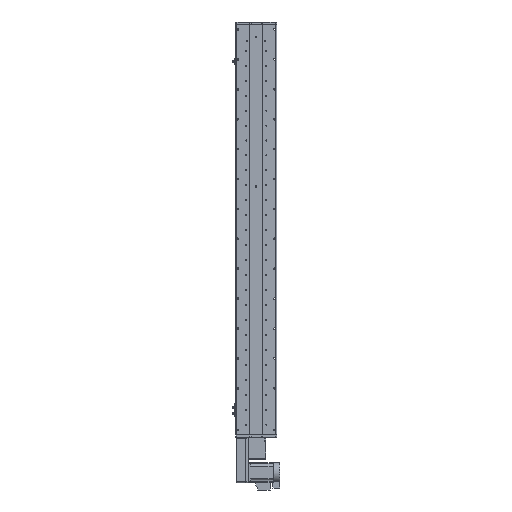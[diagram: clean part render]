
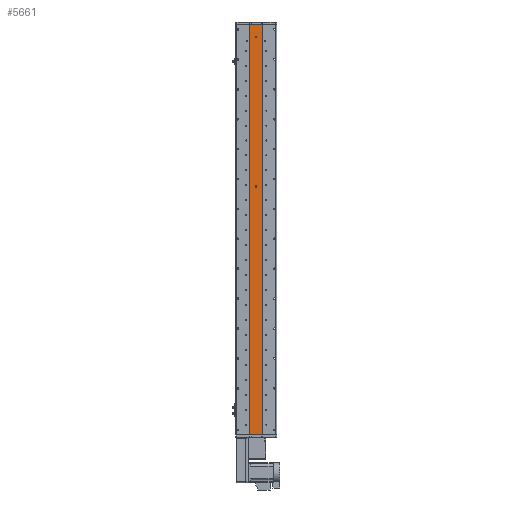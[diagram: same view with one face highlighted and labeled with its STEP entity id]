
A CAD part, front view. The second image highlights one B-rep face of the part: STEP entity #5661.
In plain terms, the highlighted planar face has unit normal (0, -1, 0).
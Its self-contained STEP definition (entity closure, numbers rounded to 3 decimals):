
#212 = DIRECTION ( 'NONE',  ( 0., 1., 0. ) ) ;
#2892 = DIRECTION ( 'NONE',  ( 0., -1., 0. ) ) ;
#3147 = CARTESIAN_POINT ( 'NONE',  ( 0., 1., 776.5 ) ) ;
#3653 = VERTEX_POINT ( 'NONE', #3147 ) ;
#4740 = EDGE_CURVE ( 'NONE', #10972, #29727, #14052, .T. ) ;
#4755 = CARTESIAN_POINT ( 'NONE',  ( -25., 1., 823.5 ) ) ;
#4967 = EDGE_LOOP ( 'NONE', ( #67202, #20370, #46887, #11594 ) ) ;
#5105 = DIRECTION ( 'NONE',  ( 0., 0., -1. ) ) ;
#5661 = ADVANCED_FACE ( 'NONE', ( #26264, #42618, #52580 ), #57800, .F. ) ;
#7641 = CARTESIAN_POINT ( 'NONE',  ( 25., 1., -823.5 ) ) ;
#7988 = CIRCLE ( 'NONE', #39880, 3. ) ;
#8156 = VECTOR ( 'NONE', #5105, 1000. ) ;
#8450 = ORIENTED_EDGE ( 'NONE', *, *, #55243, .F. ) ;
#10090 = ORIENTED_EDGE ( 'NONE', *, *, #12254, .F. ) ;
#10972 = VERTEX_POINT ( 'NONE', #27598 ) ;
#11075 = CIRCLE ( 'NONE', #26065, 3. ) ;
#11594 = ORIENTED_EDGE ( 'NONE', *, *, #4740, .T. ) ;
#12254 = EDGE_CURVE ( 'NONE', #61137, #3653, #11075, .T. ) ;
#12763 = CIRCLE ( 'NONE', #21681, 3. ) ;
#12899 = CARTESIAN_POINT ( 'NONE',  ( 25., 1., 823.5 ) ) ;
#13703 = CARTESIAN_POINT ( 'NONE',  ( 0., 1., 176.5 ) ) ;
#14052 = LINE ( 'NONE', #4755, #40303 ) ;
#14371 = EDGE_LOOP ( 'NONE', ( #10090, #37475 ) ) ;
#15099 = EDGE_CURVE ( 'NONE', #60795, #61756, #32744, .T. ) ;
#16069 = CARTESIAN_POINT ( 'NONE',  ( 25., 1., -823.5 ) ) ;
#16309 = CARTESIAN_POINT ( 'NONE',  ( 0., 1., 773.5 ) ) ;
#16487 = VERTEX_POINT ( 'NONE', #13703 ) ;
#16837 = LINE ( 'NONE', #53611, #41428 ) ;
#18276 = CARTESIAN_POINT ( 'NONE',  ( 0., 1., 173.5 ) ) ;
#18703 = CARTESIAN_POINT ( 'NONE',  ( 0., 1., 170.5 ) ) ;
#19188 = CARTESIAN_POINT ( 'NONE',  ( 0., 1., 773.5 ) ) ;
#20370 = ORIENTED_EDGE ( 'NONE', *, *, #15099, .F. ) ;
#21572 = DIRECTION ( 'NONE',  ( 0., 0., -1. ) ) ;
#21681 = AXIS2_PLACEMENT_3D ( 'NONE', #16309, #53022, #21572 ) ;
#22163 = VECTOR ( 'NONE', #65429, 1000. ) ;
#22281 = AXIS2_PLACEMENT_3D ( 'NONE', #18276, #54981, #23532 ) ;
#22327 = ORIENTED_EDGE ( 'NONE', *, *, #55204, .F. ) ;
#23532 = DIRECTION ( 'NONE',  ( 0., 0., -1. ) ) ;
#24416 = DIRECTION ( 'NONE',  ( 0., 0., -1. ) ) ;
#26065 = AXIS2_PLACEMENT_3D ( 'NONE', #19188, #55892, #24416 ) ;
#26264 = FACE_BOUND ( 'NONE', #35055, .T. ) ;
#27016 = EDGE_CURVE ( 'NONE', #3653, #61137, #12763, .T. ) ;
#27598 = CARTESIAN_POINT ( 'NONE',  ( -25., 1., 823.5 ) ) ;
#29727 = VERTEX_POINT ( 'NONE', #62275 ) ;
#31629 = CARTESIAN_POINT ( 'NONE',  ( 25., 1., 823.5 ) ) ;
#32744 = LINE ( 'NONE', #62920, #8156 ) ;
#34303 = CARTESIAN_POINT ( 'NONE',  ( 0., 1., 173.5 ) ) ;
#35055 = EDGE_LOOP ( 'NONE', ( #22327, #8450 ) ) ;
#35856 = CIRCLE ( 'NONE', #22281, 3. ) ;
#36090 = LINE ( 'NONE', #7641, #22163 ) ;
#36886 = DIRECTION ( 'NONE',  ( 0., 0., 1. ) ) ;
#37139 = CARTESIAN_POINT ( 'NONE',  ( 0., 1., 770.5 ) ) ;
#37475 = ORIENTED_EDGE ( 'NONE', *, *, #27016, .F. ) ;
#39596 = DIRECTION ( 'NONE',  ( 0., 0., -1. ) ) ;
#39880 = AXIS2_PLACEMENT_3D ( 'NONE', #34303, #2892, #39596 ) ;
#40303 = VECTOR ( 'NONE', #41451, 1000. ) ;
#41428 = VECTOR ( 'NONE', #48334, 1000. ) ;
#41451 = DIRECTION ( 'NONE',  ( 0., 0., -1. ) ) ;
#42618 = FACE_BOUND ( 'NONE', #14371, .T. ) ;
#45930 = AXIS2_PLACEMENT_3D ( 'NONE', #31629, #212, #36886 ) ;
#46887 = ORIENTED_EDGE ( 'NONE', *, *, #50871, .F. ) ;
#48334 = DIRECTION ( 'NONE',  ( 1., 0., 0. ) ) ;
#50871 = EDGE_CURVE ( 'NONE', #10972, #60795, #16837, .T. ) ;
#51075 = VERTEX_POINT ( 'NONE', #18703 ) ;
#52580 = FACE_OUTER_BOUND ( 'NONE', #4967, .T. ) ;
#53022 = DIRECTION ( 'NONE',  ( 0., -1., 0. ) ) ;
#53611 = CARTESIAN_POINT ( 'NONE',  ( 25., 1., 823.5 ) ) ;
#54981 = DIRECTION ( 'NONE',  ( 0., -1., 0. ) ) ;
#55204 = EDGE_CURVE ( 'NONE', #51075, #16487, #35856, .T. ) ;
#55243 = EDGE_CURVE ( 'NONE', #16487, #51075, #7988, .T. ) ;
#55737 = EDGE_CURVE ( 'NONE', #29727, #61756, #36090, .T. ) ;
#55892 = DIRECTION ( 'NONE',  ( 0., -1., 0. ) ) ;
#57800 = PLANE ( 'NONE',  #45930 ) ;
#60795 = VERTEX_POINT ( 'NONE', #12899 ) ;
#61137 = VERTEX_POINT ( 'NONE', #37139 ) ;
#61756 = VERTEX_POINT ( 'NONE', #16069 ) ;
#62275 = CARTESIAN_POINT ( 'NONE',  ( -25., 1., -823.5 ) ) ;
#62920 = CARTESIAN_POINT ( 'NONE',  ( 25., 1., 823.5 ) ) ;
#65429 = DIRECTION ( 'NONE',  ( 1., 0., 0. ) ) ;
#67202 = ORIENTED_EDGE ( 'NONE', *, *, #55737, .T. ) ;
